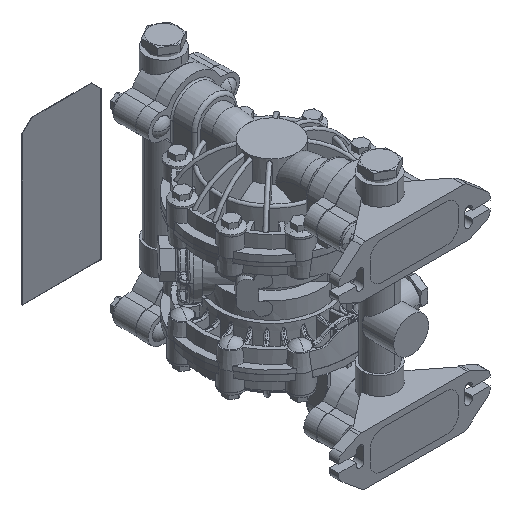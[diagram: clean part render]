
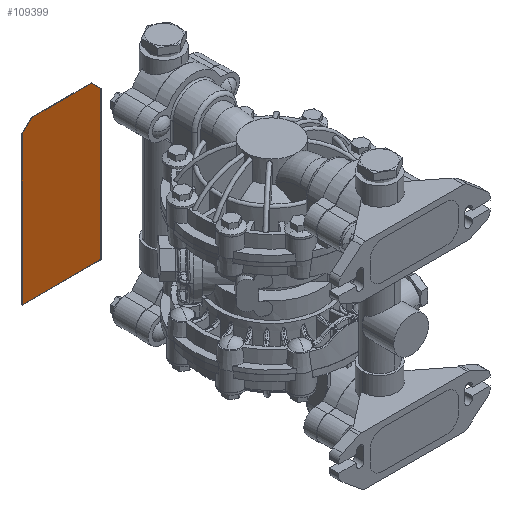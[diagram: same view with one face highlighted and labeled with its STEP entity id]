
A CAD part, isometric view. The second image highlights one B-rep face of the part: STEP entity #109399.
In plain terms, the highlighted planar face has unit normal (0, -1, 0).
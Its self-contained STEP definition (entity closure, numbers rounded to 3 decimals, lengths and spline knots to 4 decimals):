
#109284=DIRECTION('',(0.707,0.,0.707));
#109285=VECTOR('',#109284,0.5303);
#109286=CARTESIAN_POINT('',(-3.56,6.3288,2.75));
#109287=LINE('',#109286,#109285);
#109288=DIRECTION('',(1.,0.,0.));
#109289=VECTOR('',#109288,2.37);
#109290=CARTESIAN_POINT('',(-3.185,6.3288,3.125));
#109291=LINE('',#109290,#109289);
#109292=DIRECTION('',(0.707,0.,-0.707));
#109293=VECTOR('',#109292,0.5303);
#109294=CARTESIAN_POINT('',(-0.815,6.3288,3.125));
#109295=LINE('',#109294,#109293);
#109296=DIRECTION('',(0.,0.,-1.));
#109297=VECTOR('',#109296,5.875);
#109298=CARTESIAN_POINT('',(-0.44,6.3288,2.75));
#109299=LINE('',#109298,#109297);
#109300=DIRECTION('',(-1.,0.,0.));
#109301=VECTOR('',#109300,3.12);
#109302=CARTESIAN_POINT('',(-0.44,6.3288,-3.125));
#109303=LINE('',#109302,#109301);
#109304=DIRECTION('',(0.,0.,1.));
#109305=VECTOR('',#109304,5.875);
#109306=CARTESIAN_POINT('',(-3.56,6.3288,-3.125));
#109307=LINE('',#109306,#109305);
#109356=CARTESIAN_POINT('',(-3.56,6.3288,2.75));
#109357=CARTESIAN_POINT('',(-3.185,6.3288,3.125));
#109358=VERTEX_POINT('',#109356);
#109359=VERTEX_POINT('',#109357);
#109360=CARTESIAN_POINT('',(-0.815,6.3288,3.125));
#109361=VERTEX_POINT('',#109360);
#109362=CARTESIAN_POINT('',(-0.44,6.3288,2.75));
#109363=VERTEX_POINT('',#109362);
#109364=CARTESIAN_POINT('',(-0.44,6.3288,-3.125));
#109365=VERTEX_POINT('',#109364);
#109366=CARTESIAN_POINT('',(-3.56,6.3288,-3.125));
#109367=VERTEX_POINT('',#109366);
#109380=CARTESIAN_POINT('',(-2.,6.3288,0.));
#109381=DIRECTION('',(0.,1.,0.));
#109382=DIRECTION('',(0.,0.,-1.));
#109383=AXIS2_PLACEMENT_3D('',#109380,#109381,#109382);
#109384=PLANE('',#109383);
#109386=ORIENTED_EDGE('',*,*,#109385,.T.);
#109388=ORIENTED_EDGE('',*,*,#109387,.T.);
#109390=ORIENTED_EDGE('',*,*,#109389,.T.);
#109392=ORIENTED_EDGE('',*,*,#109391,.T.);
#109394=ORIENTED_EDGE('',*,*,#109393,.T.);
#109396=ORIENTED_EDGE('',*,*,#109395,.T.);
#109397=EDGE_LOOP('',(#109386,#109388,#109390,#109392,#109394,#109396));
#109398=FACE_OUTER_BOUND('',#109397,.F.);
#109399=ADVANCED_FACE('',(#109398),#109384,.F.);
#109385=EDGE_CURVE('',#109358,#109359,#109287,.T.);
#109387=EDGE_CURVE('',#109359,#109361,#109291,.T.);
#109389=EDGE_CURVE('',#109361,#109363,#109295,.T.);
#109391=EDGE_CURVE('',#109363,#109365,#109299,.T.);
#109393=EDGE_CURVE('',#109365,#109367,#109303,.T.);
#109395=EDGE_CURVE('',#109367,#109358,#109307,.T.);
